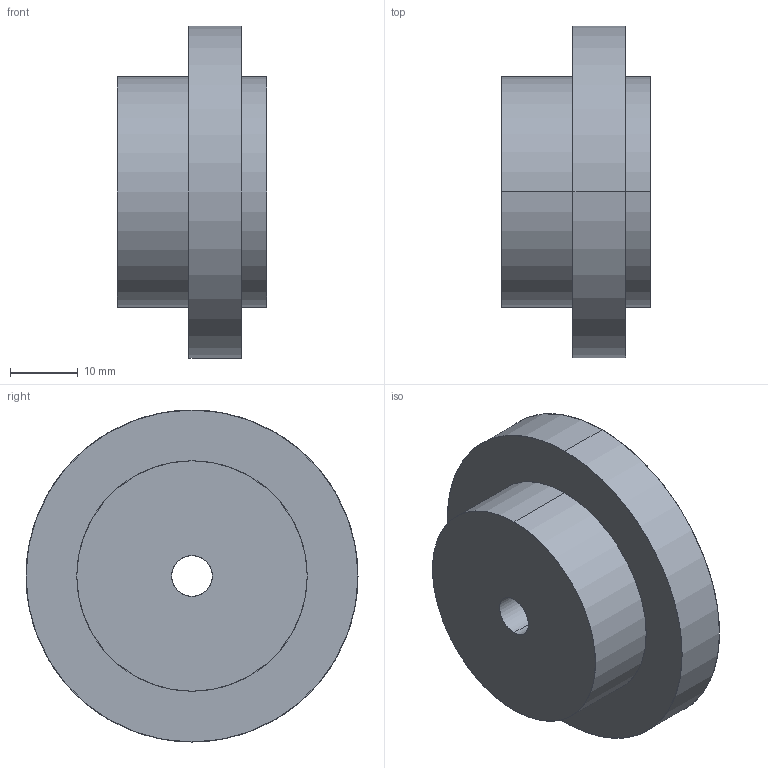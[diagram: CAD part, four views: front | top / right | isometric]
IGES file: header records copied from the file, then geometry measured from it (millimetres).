
Start section: SolidWorks IGES file using analytic representation for surfaces
Global section: file name: C:\Documents and Settings\Administrator\デスクトップ\指定保存後3回目\SolidWorks\SF\SF30\Parts\SFK-806.IGS; native system: SolidWorks 2006 by SolidWorks Corporation; preprocessor: SolidWorks 2006 by SolidWorks Corporation; author: Administrator; date: 061213.110933; units: millimetre
Bounding box: 22.1 x 49 x 49 mm (x, y, z)
Surface area: 6859.7 mm2 (no closed solid volume)
Topology: 0 solids, 0 shells, 12 faces, 504 edges, 528 vertices
Faces by surface type: revolution 8, bspline 4
